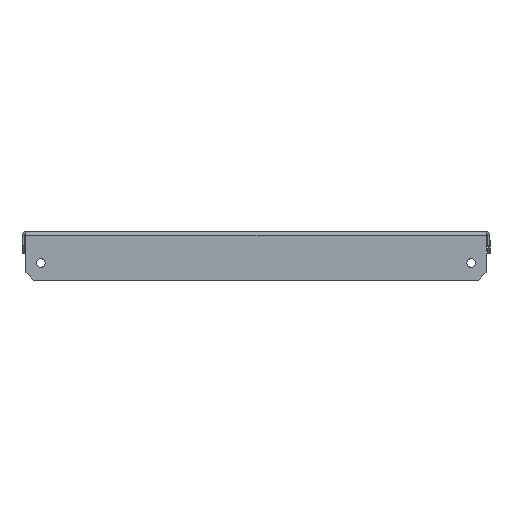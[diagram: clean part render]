
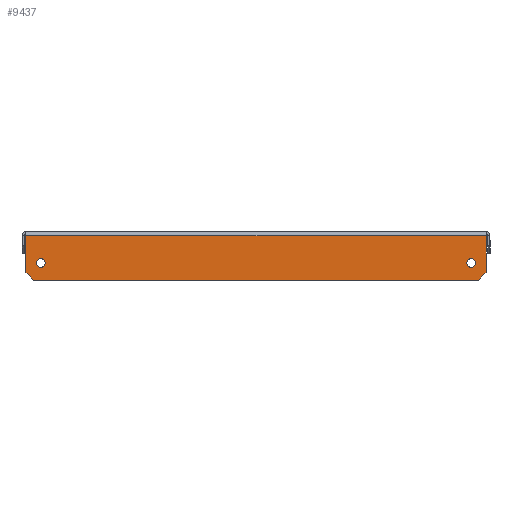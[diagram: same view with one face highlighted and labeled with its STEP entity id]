
A CAD part, left-side view. The second image highlights one B-rep face of the part: STEP entity #9437.
In plain terms, the highlighted planar face has unit normal (-1, 0, 0).
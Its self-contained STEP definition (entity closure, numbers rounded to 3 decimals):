
#72 = LINE ( 'NONE', #6974, #5224 ) ;
#88 = CARTESIAN_POINT ( 'NONE',  ( -148.5, 142., -31. ) ) ;
#158 = DIRECTION ( 'NONE',  ( 0., 1., 0. ) ) ;
#189 = CARTESIAN_POINT ( 'NONE',  ( -148.5, 137.5, -20. ) ) ;
#329 = VERTEX_POINT ( 'NONE', #4306 ) ;
#391 = VERTEX_POINT ( 'NONE', #6835 ) ;
#543 = VERTEX_POINT ( 'NONE', #88 ) ;
#924 = LINE ( 'NONE', #7111, #9621 ) ;
#955 = ORIENTED_EDGE ( 'NONE', *, *, #4343, .T. ) ;
#1195 = DIRECTION ( 'NONE',  ( 0., 0., 1. ) ) ;
#1382 = CIRCLE ( 'NONE', #2675, 2.75 ) ;
#1428 = VERTEX_POINT ( 'NONE', #5063 ) ;
#1566 = DIRECTION ( 'NONE',  ( -1., 0., 0. ) ) ;
#1701 = EDGE_CURVE ( 'NONE', #4926, #4926, #4135, .T. ) ;
#1922 = DIRECTION ( 'NONE',  ( 0., 1., 0. ) ) ;
#2675 = AXIS2_PLACEMENT_3D ( 'NONE', #3696, #6792, #1195 ) ;
#2702 = ORIENTED_EDGE ( 'NONE', *, *, #3937, .T. ) ;
#2779 = FACE_OUTER_BOUND ( 'NONE', #5139, .T. ) ;
#3015 = EDGE_CURVE ( 'NONE', #9106, #543, #9690, .T. ) ;
#3291 = DIRECTION ( 'NONE',  ( -1., 0., 0. ) ) ;
#3464 = ORIENTED_EDGE ( 'NONE', *, *, #9090, .F. ) ;
#3473 = LINE ( 'NONE', #7470, #4900 ) ;
#3688 = EDGE_CURVE ( 'NONE', #5043, #391, #72, .T. ) ;
#3696 = CARTESIAN_POINT ( 'NONE',  ( -148.5, -137.5, -20. ) ) ;
#3924 = VECTOR ( 'NONE', #1922, 1000. ) ;
#3937 = EDGE_CURVE ( 'NONE', #9106, #6395, #3473, .T. ) ;
#4135 = CIRCLE ( 'NONE', #5090, 2.75 ) ;
#4306 = CARTESIAN_POINT ( 'NONE',  ( -148.5, -147., -2.5 ) ) ;
#4343 = EDGE_CURVE ( 'NONE', #5043, #543, #924, .T. ) ;
#4712 = DIRECTION ( 'NONE',  ( 0., 0., 1. ) ) ;
#4715 = DIRECTION ( 'NONE',  ( 0., 0., -1. ) ) ;
#4818 = ORIENTED_EDGE ( 'NONE', *, *, #3015, .F. ) ;
#4900 = VECTOR ( 'NONE', #8234, 1000. ) ;
#4926 = VERTEX_POINT ( 'NONE', #9556 ) ;
#5043 = VERTEX_POINT ( 'NONE', #7849 ) ;
#5063 = CARTESIAN_POINT ( 'NONE',  ( -148.5, -137.5, -17.25 ) ) ;
#5090 = AXIS2_PLACEMENT_3D ( 'NONE', #189, #3291, #4712 ) ;
#5137 = EDGE_LOOP ( 'NONE', ( #9783 ) ) ;
#5139 = EDGE_LOOP ( 'NONE', ( #7726, #955, #4818, #2702, #3464, #6595 ) ) ;
#5224 = VECTOR ( 'NONE', #8457, 1000. ) ;
#5318 = EDGE_LOOP ( 'NONE', ( #9794 ) ) ;
#5637 = CARTESIAN_POINT ( 'NONE',  ( -148.5, 0., -2.5 ) ) ;
#5970 = AXIS2_PLACEMENT_3D ( 'NONE', #10041, #1566, #6176 ) ;
#6176 = DIRECTION ( 'NONE',  ( 0., 0., 1. ) ) ;
#6302 = EDGE_CURVE ( 'NONE', #1428, #1428, #1382, .T. ) ;
#6395 = VERTEX_POINT ( 'NONE', #8956 ) ;
#6595 = ORIENTED_EDGE ( 'NONE', *, *, #8817, .T. ) ;
#6640 = FACE_BOUND ( 'NONE', #5137, .T. ) ;
#6792 = DIRECTION ( 'NONE',  ( 1., 0., 0. ) ) ;
#6835 = CARTESIAN_POINT ( 'NONE',  ( -148.5, 147., -2.5 ) ) ;
#6974 = CARTESIAN_POINT ( 'NONE',  ( -148.5, 147., -1.5 ) ) ;
#7111 = CARTESIAN_POINT ( 'NONE',  ( -148.5, 86.5, -86.5 ) ) ;
#7260 = DIRECTION ( 'NONE',  ( 0., -0.707, -0.707 ) ) ;
#7470 = CARTESIAN_POINT ( 'NONE',  ( -148.5, -86.5, -86.5 ) ) ;
#7726 = ORIENTED_EDGE ( 'NONE', *, *, #3688, .F. ) ;
#7849 = CARTESIAN_POINT ( 'NONE',  ( -148.5, 147., -26. ) ) ;
#8028 = LINE ( 'NONE', #5637, #8732 ) ;
#8210 = PLANE ( 'NONE',  #5970 ) ;
#8234 = DIRECTION ( 'NONE',  ( 0., -0.707, 0.707 ) ) ;
#8376 = CARTESIAN_POINT ( 'NONE',  ( -148.5, -142., -31. ) ) ;
#8457 = DIRECTION ( 'NONE',  ( 0., 0., 1. ) ) ;
#8481 = LINE ( 'NONE', #9392, #9703 ) ;
#8732 = VECTOR ( 'NONE', #158, 1000. ) ;
#8817 = EDGE_CURVE ( 'NONE', #329, #391, #8028, .T. ) ;
#8875 = CARTESIAN_POINT ( 'NONE',  ( -148.5, 147., -31. ) ) ;
#8956 = CARTESIAN_POINT ( 'NONE',  ( -148.5, -147., -26. ) ) ;
#9090 = EDGE_CURVE ( 'NONE', #329, #6395, #8481, .T. ) ;
#9106 = VERTEX_POINT ( 'NONE', #8376 ) ;
#9392 = CARTESIAN_POINT ( 'NONE',  ( -148.5, -147., -31. ) ) ;
#9437 = ADVANCED_FACE ( 'NONE', ( #6640, #9734, #2779 ), #8210, .T. ) ;
#9556 = CARTESIAN_POINT ( 'NONE',  ( -148.5, 137.5, -17.25 ) ) ;
#9621 = VECTOR ( 'NONE', #7260, 1000. ) ;
#9690 = LINE ( 'NONE', #8875, #3924 ) ;
#9703 = VECTOR ( 'NONE', #4715, 1000. ) ;
#9734 = FACE_BOUND ( 'NONE', #5318, .T. ) ;
#9783 = ORIENTED_EDGE ( 'NONE', *, *, #6302, .T. ) ;
#9794 = ORIENTED_EDGE ( 'NONE', *, *, #1701, .F. ) ;
#10041 = CARTESIAN_POINT ( 'NONE',  ( -148.5, 0., 0. ) ) ;
